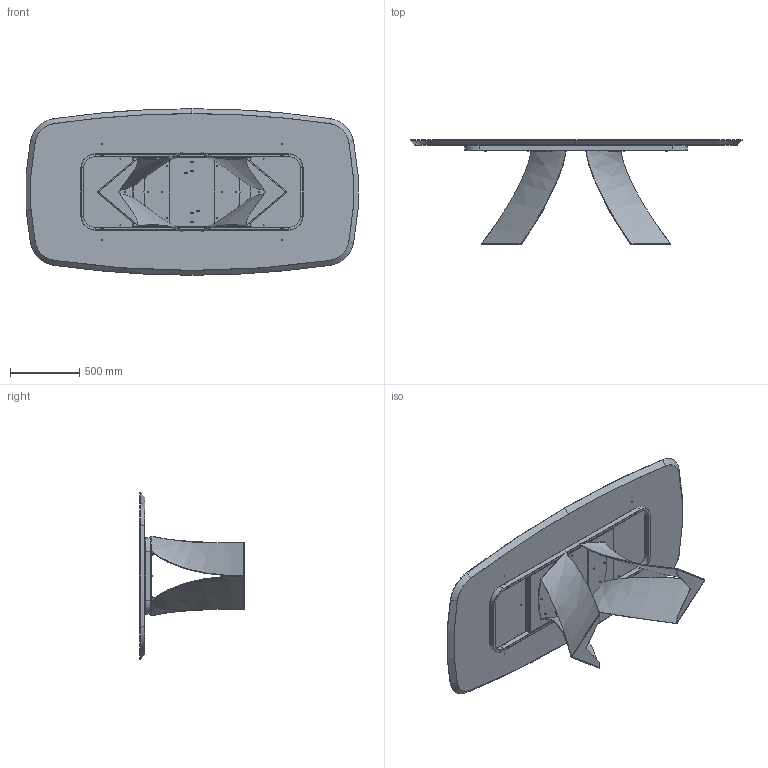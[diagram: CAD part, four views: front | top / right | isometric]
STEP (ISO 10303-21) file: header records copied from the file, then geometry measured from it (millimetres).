
FILE_DESCRIPTION (( 'STEP AP203' ), '1' );
FILE_NAME ('TW43W.STEP', '2024-08-07T12:31:04', ( '' ), ( '' ), 'SwSTEP 2.0', 'SolidWorks 2022', '' );
FILE_SCHEMA (( 'CONFIG_CONTROL_DESIGN' ));
Length unit declared in the file: millimetre
Products named in the file (9): TUBOLARE TELAIO TEMP TWIST_Default<A macchina>; TTAV01_02-01-VASSOIO IRRIGIDIMENTO TELAIO UNIVERSALE; M8xXXmm_M8x20mm; TWS000000BAS-00-TWIST BASE GREZZA; TEALIO TEMP PER MANUALE; rondella M8_8X16; M8xXXmm_M8x55mm; TW43W; W4XCMXX-00-Piani Sagomati legno_2400 x 1200
Assembly tree (38 placements, depth 3):
  TW43W
    W4XCMXX-00-Piani Sagomati legno_2400 x 1200
    TEALIO TEMP PER MANUALE
      TUBOLARE TELAIO TEMP TWIST_Default<A macchina>
      TTAV01_02-01-VASSOIO IRRIGIDIMENTO TELAIO UNIVERSALE
    TWS000000BAS-00-TWIST BASE GREZZA  x2
    M8xXXmm_M8x55mm  x4
    rondella M8_8X16  x16
    M8xXXmm_M8x20mm  x12
Bounding box: 2391.9 x 753.37 x 1200 mm (x, y, z)
Volume: 107349712.2 mm3; surface area: 9833236.2 mm2
Topology: 52 solids, 52 shells, 1303 faces, 3052 edges, 1822 vertices
Faces by surface type: plane 464, cylinder 325, torus 233, cone 215, bspline 66
Entity records: 25208 total; most frequent: CARTESIAN_POINT 9424, DIRECTION 3016, ORIENTED_EDGE 2846, EDGE_CURVE 1423, AXIS2_PLACEMENT_3D 1142, VERTEX_POINT 911, VECTOR 732, LINE 732
